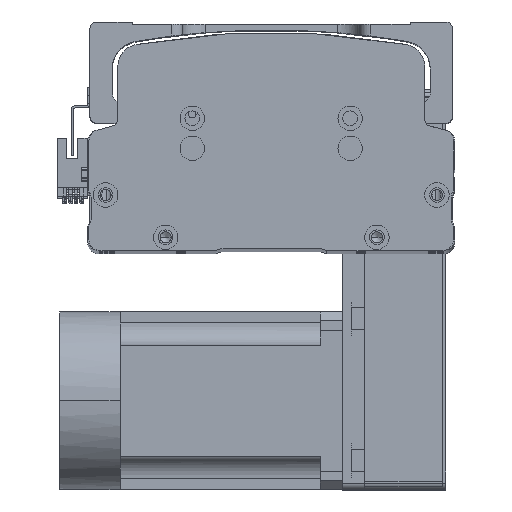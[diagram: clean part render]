
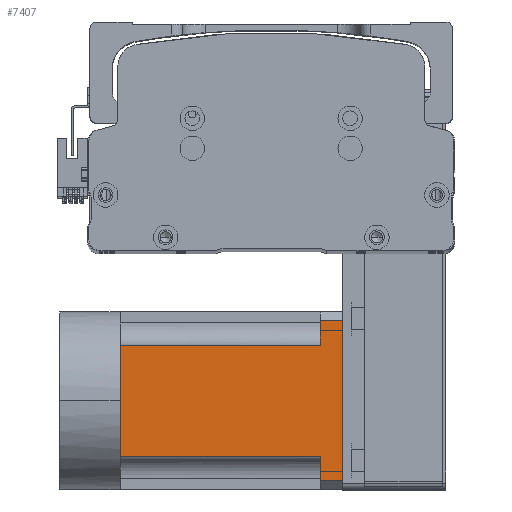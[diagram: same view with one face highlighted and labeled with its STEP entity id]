
A CAD part, top view. The second image highlights one B-rep face of the part: STEP entity #7407.
In plain terms, the highlighted planar face has unit normal (0, 0, 1) as drawn and (0, 0, -1) by its records, which use the part's own axes.
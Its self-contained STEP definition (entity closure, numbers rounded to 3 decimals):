
#674 = ORIENTED_EDGE ( 'NONE', *, *, #27212, .T. ) ;
#2382 = CARTESIAN_POINT ( 'NONE',  ( 0., 0., -40. ) ) ;
#2912 = LINE ( 'NONE', #21004, #15870 ) ;
#3004 = DIRECTION ( 'NONE',  ( -1., 0., 0. ) ) ;
#3309 = VECTOR ( 'NONE', #59697, 1000. ) ;
#3526 = EDGE_LOOP ( 'NONE', ( #10340, #54617, #57891, #20965, #37954, #46371, #33392, #4906, #674 ) ) ;
#4394 = VECTOR ( 'NONE', #39674, 1000. ) ;
#4564 = CARTESIAN_POINT ( 'NONE',  ( -40., -27., -40. ) ) ;
#4906 = ORIENTED_EDGE ( 'NONE', *, *, #45890, .T. ) ;
#5388 = CARTESIAN_POINT ( 'NONE',  ( 25., 90., -40. ) ) ;
#5761 = CARTESIAN_POINT ( 'NONE',  ( -40., 0., -40. ) ) ;
#6035 = CARTESIAN_POINT ( 'NONE',  ( 36., 100., -40. ) ) ;
#6424 = CARTESIAN_POINT ( 'NONE',  ( -25., 90., -40. ) ) ;
#7146 = DIRECTION ( 'NONE',  ( -1., 0., 0. ) ) ;
#7407 = ADVANCED_FACE ( 'NONE', ( #16523 ), #19242, .T. ) ;
#8746 = DIRECTION ( 'NONE',  ( 0., -1., 0. ) ) ;
#10340 = ORIENTED_EDGE ( 'NONE', *, *, #52404, .F. ) ;
#10558 = DIRECTION ( 'NONE',  ( 0., -1., 0. ) ) ;
#10852 = CARTESIAN_POINT ( 'NONE',  ( -40., 0., -40. ) ) ;
#14025 = EDGE_CURVE ( 'NONE', #45367, #49932, #30459, .T. ) ;
#15471 = DIRECTION ( 'NONE',  ( 0., 1., 0. ) ) ;
#15870 = VECTOR ( 'NONE', #54846, 1000. ) ;
#16523 = FACE_OUTER_BOUND ( 'NONE', #3526, .T. ) ;
#16554 = VERTEX_POINT ( 'NONE', #23587 ) ;
#16865 = LINE ( 'NONE', #41094, #25206 ) ;
#17578 = VECTOR ( 'NONE', #15471, 1000. ) ;
#19242 = PLANE ( 'NONE',  #23967 ) ;
#20965 = ORIENTED_EDGE ( 'NONE', *, *, #52515, .T. ) ;
#21004 = CARTESIAN_POINT ( 'NONE',  ( -40., 90., -40. ) ) ;
#22096 = CARTESIAN_POINT ( 'NONE',  ( 36., 90., -40. ) ) ;
#23587 = CARTESIAN_POINT ( 'NONE',  ( 25., 0., -40. ) ) ;
#23967 = AXIS2_PLACEMENT_3D ( 'NONE', #4564, #53104, #24109 ) ;
#24109 = DIRECTION ( 'NONE',  ( -1., 0., 0. ) ) ;
#24995 = CARTESIAN_POINT ( 'NONE',  ( -25., -27., -40. ) ) ;
#25206 = VECTOR ( 'NONE', #7146, 1000. ) ;
#27212 = EDGE_CURVE ( 'NONE', #40082, #60809, #42044, .T. ) ;
#28047 = CARTESIAN_POINT ( 'NONE',  ( 25., -27., -40. ) ) ;
#29345 = CARTESIAN_POINT ( 'NONE',  ( -36., 100., -40. ) ) ;
#30350 = EDGE_CURVE ( 'NONE', #16554, #57252, #41638, .T. ) ;
#30459 = LINE ( 'NONE', #24995, #17578 ) ;
#30731 = LINE ( 'NONE', #10852, #56486 ) ;
#30951 = LINE ( 'NONE', #56204, #55173 ) ;
#33392 = ORIENTED_EDGE ( 'NONE', *, *, #14025, .T. ) ;
#34713 = CARTESIAN_POINT ( 'NONE',  ( 36., -27., -40. ) ) ;
#36235 = VECTOR ( 'NONE', #8746, 1000. ) ;
#36247 = VERTEX_POINT ( 'NONE', #22096 ) ;
#37850 = LINE ( 'NONE', #34713, #49240 ) ;
#37954 = ORIENTED_EDGE ( 'NONE', *, *, #30350, .T. ) ;
#39674 = DIRECTION ( 'NONE',  ( -1., 0., 0. ) ) ;
#39923 = CARTESIAN_POINT ( 'NONE',  ( -25., 0., -40. ) ) ;
#40082 = VERTEX_POINT ( 'NONE', #54250 ) ;
#41094 = CARTESIAN_POINT ( 'NONE',  ( -40., 90., -40. ) ) ;
#41638 = LINE ( 'NONE', #5761, #4394 ) ;
#42044 = LINE ( 'NONE', #54784, #3309 ) ;
#42752 = EDGE_CURVE ( 'NONE', #57252, #45367, #30731, .T. ) ;
#43845 = VERTEX_POINT ( 'NONE', #6035 ) ;
#45367 = VERTEX_POINT ( 'NONE', #39923 ) ;
#45890 = EDGE_CURVE ( 'NONE', #49932, #40082, #2912, .T. ) ;
#46371 = ORIENTED_EDGE ( 'NONE', *, *, #42752, .T. ) ;
#49240 = VECTOR ( 'NONE', #10558, 1000. ) ;
#49932 = VERTEX_POINT ( 'NONE', #6424 ) ;
#52160 = VERTEX_POINT ( 'NONE', #5388 ) ;
#52404 = EDGE_CURVE ( 'NONE', #43845, #60809, #30951, .T. ) ;
#52515 = EDGE_CURVE ( 'NONE', #52160, #16554, #61985, .T. ) ;
#53104 = DIRECTION ( 'NONE',  ( 0., 0., -1. ) ) ;
#54250 = CARTESIAN_POINT ( 'NONE',  ( -36., 90., -40. ) ) ;
#54287 = DIRECTION ( 'NONE',  ( -1., 0., 0. ) ) ;
#54617 = ORIENTED_EDGE ( 'NONE', *, *, #60323, .T. ) ;
#54784 = CARTESIAN_POINT ( 'NONE',  ( -36., -27., -40. ) ) ;
#54846 = DIRECTION ( 'NONE',  ( -1., 0., 0. ) ) ;
#55173 = VECTOR ( 'NONE', #3004, 1000. ) ;
#56204 = CARTESIAN_POINT ( 'NONE',  ( -40., 100., -40. ) ) ;
#56486 = VECTOR ( 'NONE', #54287, 1000. ) ;
#57252 = VERTEX_POINT ( 'NONE', #2382 ) ;
#57891 = ORIENTED_EDGE ( 'NONE', *, *, #58472, .T. ) ;
#58472 = EDGE_CURVE ( 'NONE', #36247, #52160, #16865, .T. ) ;
#59697 = DIRECTION ( 'NONE',  ( 0., 1., 0. ) ) ;
#60323 = EDGE_CURVE ( 'NONE', #43845, #36247, #37850, .T. ) ;
#60809 = VERTEX_POINT ( 'NONE', #29345 ) ;
#61985 = LINE ( 'NONE', #28047, #36235 ) ;
